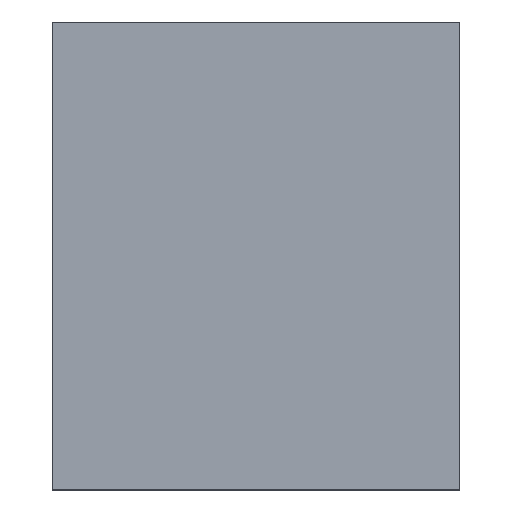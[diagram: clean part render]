
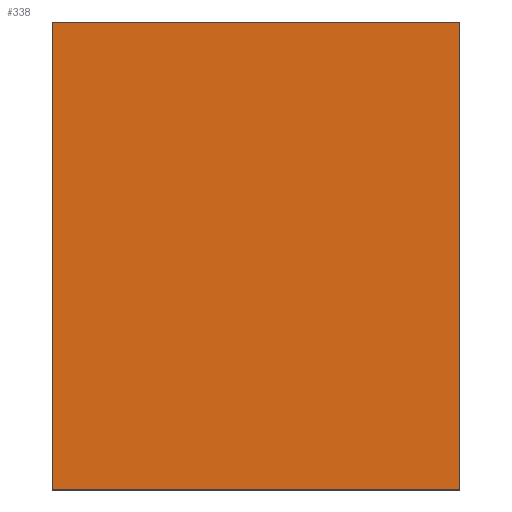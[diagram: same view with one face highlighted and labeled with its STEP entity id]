
A CAD part, top view. The second image highlights one B-rep face of the part: STEP entity #338.
In plain terms, the highlighted planar face has unit normal (0, 0, 1).
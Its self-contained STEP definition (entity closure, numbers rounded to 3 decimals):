
#24 = VERTEX_POINT('',#25);
#25 = CARTESIAN_POINT('',(-87.,-100.,12.));
#32 = PLANE('',#33);
#33 = AXIS2_PLACEMENT_3D('',#34,#35,#36);
#34 = CARTESIAN_POINT('',(-87.,-100.,0.));
#35 = DIRECTION('',(0.,1.,0.));
#36 = DIRECTION('',(1.,0.,0.));
#44 = PLANE('',#45);
#45 = AXIS2_PLACEMENT_3D('',#46,#47,#48);
#46 = CARTESIAN_POINT('',(-87.,100.,0.));
#47 = DIRECTION('',(1.,0.,-0.));
#48 = DIRECTION('',(0.,-1.,0.));
#56 = EDGE_CURVE('',#24,#57,#59,.T.);
#57 = VERTEX_POINT('',#58);
#58 = CARTESIAN_POINT('',(87.,-100.,12.));
#59 = SURFACE_CURVE('',#60,(#64,#71),.PCURVE_S1.);
#60 = LINE('',#61,#62);
#61 = CARTESIAN_POINT('',(-87.,-100.,12.));
#62 = VECTOR('',#63,1.);
#63 = DIRECTION('',(1.,0.,0.));
#64 = PCURVE('',#32,#65);
#65 = DEFINITIONAL_REPRESENTATION('',(#66),#70);
#66 = LINE('',#67,#68);
#67 = CARTESIAN_POINT('',(0.,-12.));
#68 = VECTOR('',#69,1.);
#69 = DIRECTION('',(1.,0.));
#70 = ( GEOMETRIC_REPRESENTATION_CONTEXT(2) 
PARAMETRIC_REPRESENTATION_CONTEXT() REPRESENTATION_CONTEXT('2D SPACE',''
  ) );
#71 = PCURVE('',#72,#77);
#72 = PLANE('',#73);
#73 = AXIS2_PLACEMENT_3D('',#74,#75,#76);
#74 = CARTESIAN_POINT('',(0.,0.,12.));
#75 = DIRECTION('',(0.,0.,1.));
#76 = DIRECTION('',(1.,0.,-0.));
#77 = DEFINITIONAL_REPRESENTATION('',(#78),#82);
#78 = LINE('',#79,#80);
#79 = CARTESIAN_POINT('',(-87.,-100.));
#80 = VECTOR('',#81,1.);
#81 = DIRECTION('',(1.,0.));
#82 = ( GEOMETRIC_REPRESENTATION_CONTEXT(2) 
PARAMETRIC_REPRESENTATION_CONTEXT() REPRESENTATION_CONTEXT('2D SPACE',''
  ) );
#100 = PLANE('',#101);
#101 = AXIS2_PLACEMENT_3D('',#102,#103,#104);
#102 = CARTESIAN_POINT('',(87.,-100.,0.));
#103 = DIRECTION('',(-1.,0.,0.));
#104 = DIRECTION('',(0.,1.,0.));
#142 = EDGE_CURVE('',#57,#143,#145,.T.);
#143 = VERTEX_POINT('',#144);
#144 = CARTESIAN_POINT('',(87.,100.,12.));
#145 = SURFACE_CURVE('',#146,(#150,#157),.PCURVE_S1.);
#146 = LINE('',#147,#148);
#147 = CARTESIAN_POINT('',(87.,-100.,12.));
#148 = VECTOR('',#149,1.);
#149 = DIRECTION('',(0.,1.,0.));
#150 = PCURVE('',#100,#151);
#151 = DEFINITIONAL_REPRESENTATION('',(#152),#156);
#152 = LINE('',#153,#154);
#153 = CARTESIAN_POINT('',(0.,-12.));
#154 = VECTOR('',#155,1.);
#155 = DIRECTION('',(1.,0.));
#156 = ( GEOMETRIC_REPRESENTATION_CONTEXT(2) 
PARAMETRIC_REPRESENTATION_CONTEXT() REPRESENTATION_CONTEXT('2D SPACE',''
  ) );
#157 = PCURVE('',#72,#158);
#158 = DEFINITIONAL_REPRESENTATION('',(#159),#163);
#159 = LINE('',#160,#161);
#160 = CARTESIAN_POINT('',(87.,-100.));
#161 = VECTOR('',#162,1.);
#162 = DIRECTION('',(0.,1.));
#163 = ( GEOMETRIC_REPRESENTATION_CONTEXT(2) 
PARAMETRIC_REPRESENTATION_CONTEXT() REPRESENTATION_CONTEXT('2D SPACE',''
  ) );
#181 = PLANE('',#182);
#182 = AXIS2_PLACEMENT_3D('',#183,#184,#185);
#183 = CARTESIAN_POINT('',(87.,100.,0.));
#184 = DIRECTION('',(0.,-1.,0.));
#185 = DIRECTION('',(-1.,0.,0.));
#218 = EDGE_CURVE('',#143,#219,#221,.T.);
#219 = VERTEX_POINT('',#220);
#220 = CARTESIAN_POINT('',(-87.,100.,12.));
#221 = SURFACE_CURVE('',#222,(#226,#233),.PCURVE_S1.);
#222 = LINE('',#223,#224);
#223 = CARTESIAN_POINT('',(87.,100.,12.));
#224 = VECTOR('',#225,1.);
#225 = DIRECTION('',(-1.,0.,0.));
#226 = PCURVE('',#181,#227);
#227 = DEFINITIONAL_REPRESENTATION('',(#228),#232);
#228 = LINE('',#229,#230);
#229 = CARTESIAN_POINT('',(0.,-12.));
#230 = VECTOR('',#231,1.);
#231 = DIRECTION('',(1.,0.));
#232 = ( GEOMETRIC_REPRESENTATION_CONTEXT(2) 
PARAMETRIC_REPRESENTATION_CONTEXT() REPRESENTATION_CONTEXT('2D SPACE',''
  ) );
#233 = PCURVE('',#72,#234);
#234 = DEFINITIONAL_REPRESENTATION('',(#235),#239);
#235 = LINE('',#236,#237);
#236 = CARTESIAN_POINT('',(87.,100.));
#237 = VECTOR('',#238,1.);
#238 = DIRECTION('',(-1.,0.));
#239 = ( GEOMETRIC_REPRESENTATION_CONTEXT(2) 
PARAMETRIC_REPRESENTATION_CONTEXT() REPRESENTATION_CONTEXT('2D SPACE',''
  ) );
#289 = EDGE_CURVE('',#219,#24,#290,.T.);
#290 = SURFACE_CURVE('',#291,(#295,#302),.PCURVE_S1.);
#291 = LINE('',#292,#293);
#292 = CARTESIAN_POINT('',(-87.,100.,12.));
#293 = VECTOR('',#294,1.);
#294 = DIRECTION('',(0.,-1.,0.));
#295 = PCURVE('',#44,#296);
#296 = DEFINITIONAL_REPRESENTATION('',(#297),#301);
#297 = LINE('',#298,#299);
#298 = CARTESIAN_POINT('',(0.,-12.));
#299 = VECTOR('',#300,1.);
#300 = DIRECTION('',(1.,0.));
#301 = ( GEOMETRIC_REPRESENTATION_CONTEXT(2) 
PARAMETRIC_REPRESENTATION_CONTEXT() REPRESENTATION_CONTEXT('2D SPACE',''
  ) );
#302 = PCURVE('',#72,#303);
#303 = DEFINITIONAL_REPRESENTATION('',(#304),#308);
#304 = LINE('',#305,#306);
#305 = CARTESIAN_POINT('',(-87.,100.));
#306 = VECTOR('',#307,1.);
#307 = DIRECTION('',(0.,-1.));
#308 = ( GEOMETRIC_REPRESENTATION_CONTEXT(2) 
PARAMETRIC_REPRESENTATION_CONTEXT() REPRESENTATION_CONTEXT('2D SPACE',''
  ) );
#338 = ADVANCED_FACE('',(#339),#72,.T.);
#339 = FACE_BOUND('',#340,.T.);
#340 = EDGE_LOOP('',(#341,#342,#343,#344));
#341 = ORIENTED_EDGE('',*,*,#56,.T.);
#342 = ORIENTED_EDGE('',*,*,#142,.T.);
#343 = ORIENTED_EDGE('',*,*,#218,.T.);
#344 = ORIENTED_EDGE('',*,*,#289,.T.);
